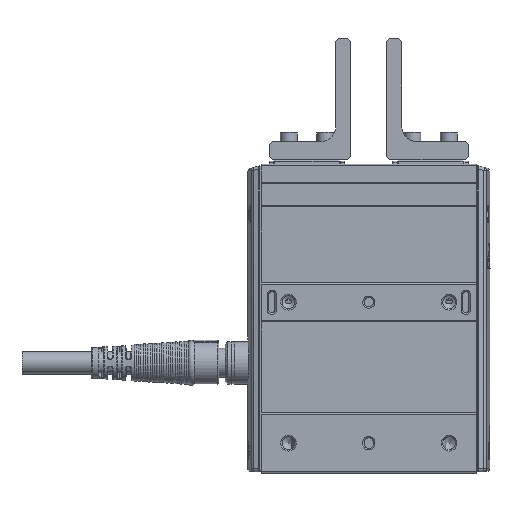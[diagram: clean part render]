
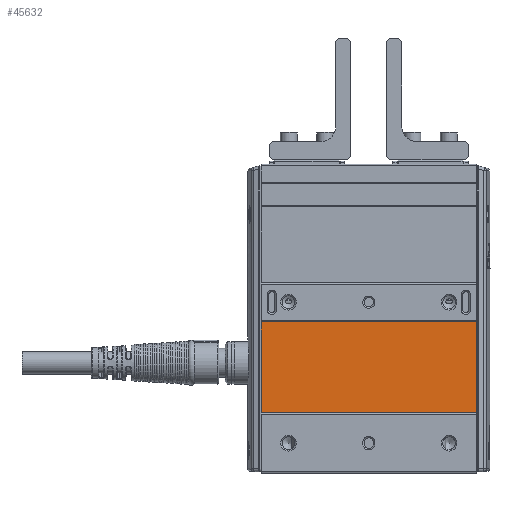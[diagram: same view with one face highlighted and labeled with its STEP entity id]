
A CAD part, left-side view. The second image highlights one B-rep face of the part: STEP entity #45632.
In plain terms, the highlighted planar face has unit normal (-1, 0, 0).
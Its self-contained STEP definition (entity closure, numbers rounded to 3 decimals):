
#4075=PLANE('',#49741);
#6461=FACE_OUTER_BOUND('',#9084,.T.);
#9084=EDGE_LOOP('',(#37985,#37986,#37987,#37988));
#12107=LINE('',#84404,#15504);
#12134=LINE('',#84492,#15531);
#12135=LINE('',#84494,#15532);
#12136=LINE('',#84495,#15533);
#15504=VECTOR('',#59156,1000.);
#15531=VECTOR('',#59227,1000.);
#15532=VECTOR('',#59228,1000.);
#15533=VECTOR('',#59229,1000.);
#22321=VERTEX_POINT('',#84401);
#22322=VERTEX_POINT('',#84403);
#22361=VERTEX_POINT('',#84491);
#22362=VERTEX_POINT('',#84493);
#27852=EDGE_CURVE('',#22322,#22321,#12107,.T.);
#27896=EDGE_CURVE('',#22361,#22321,#12134,.T.);
#27897=EDGE_CURVE('',#22362,#22361,#12135,.T.);
#27898=EDGE_CURVE('',#22362,#22322,#12136,.T.);
#37985=ORIENTED_EDGE('',*,*,#27896,.F.);
#37986=ORIENTED_EDGE('',*,*,#27897,.F.);
#37987=ORIENTED_EDGE('',*,*,#27898,.T.);
#37988=ORIENTED_EDGE('',*,*,#27852,.T.);
#45632=ADVANCED_FACE('',(#6461),#4075,.F.);
#49741=AXIS2_PLACEMENT_3D('',#84490,#59225,#59226);
#59156=DIRECTION('',(0.,0.,-1.));
#59225=DIRECTION('center_axis',(1.,0.,0.));
#59226=DIRECTION('ref_axis',(0.,0.,1.));
#59227=DIRECTION('',(0.,1.,0.));
#59228=DIRECTION('',(0.,0.,-1.));
#59229=DIRECTION('',(0.,1.,0.));
#84401=CARTESIAN_POINT('',(-17.5,35.5,-38.));
#84403=CARTESIAN_POINT('',(-17.5,35.5,-8.));
#84404=CARTESIAN_POINT('',(-17.5,35.5,44.));
#84490=CARTESIAN_POINT('Origin',(-17.5,-35.5,44.));
#84491=CARTESIAN_POINT('',(-17.5,-35.5,-38.));
#84492=CARTESIAN_POINT('',(-17.5,-55.506,-38.));
#84493=CARTESIAN_POINT('',(-17.5,-35.5,-8.));
#84494=CARTESIAN_POINT('',(-17.5,-35.5,44.));
#84495=CARTESIAN_POINT('',(-17.5,-55.506,-8.));
